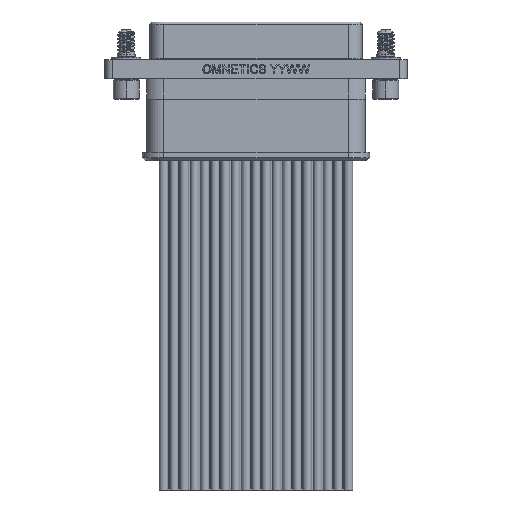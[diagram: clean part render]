
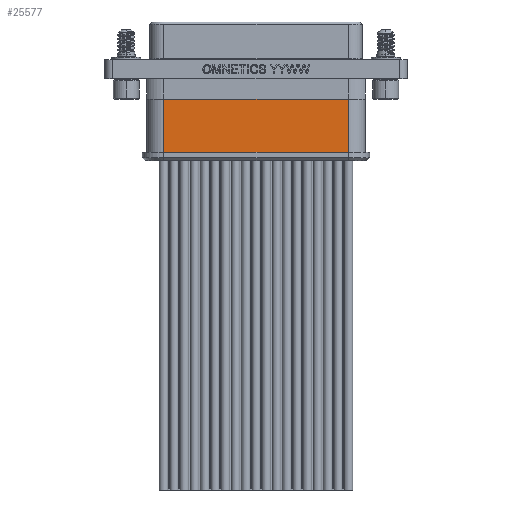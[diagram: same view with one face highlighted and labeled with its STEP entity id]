
A CAD part, front view. The second image highlights one B-rep face of the part: STEP entity #25577.
In plain terms, the highlighted planar face has unit normal (0, -1, 0).
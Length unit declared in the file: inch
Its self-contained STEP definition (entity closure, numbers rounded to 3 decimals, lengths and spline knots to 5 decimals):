
#346 = CARTESIAN_POINT ( 'NONE',  ( -0.4485, -0.104, -0.411 ) ) ;
#2065 = EDGE_CURVE ( 'NONE', #31030, #19276, #25063, .T. ) ;
#2092 = FACE_OUTER_BOUND ( 'NONE', #24980, .T. ) ;
#4809 = CARTESIAN_POINT ( 'NONE',  ( -0.4485, -0.104, -0.151 ) ) ;
#5791 = CARTESIAN_POINT ( 'NONE',  ( 0.4485, -0.104, -0.411 ) ) ;
#6208 = VERTEX_POINT ( 'NONE', #21591 ) ;
#7201 = EDGE_CURVE ( 'NONE', #15805, #6208, #11929, .T. ) ;
#7365 = CARTESIAN_POINT ( 'NONE',  ( -0.4485, -0.104, -0.411 ) ) ;
#9099 = AXIS2_PLACEMENT_3D ( 'NONE', #16446, #16652, #18632 ) ;
#9588 = VECTOR ( 'NONE', #12224, 39.37008 ) ;
#9784 = VECTOR ( 'NONE', #23058, 39.37008 ) ;
#11929 = LINE ( 'NONE', #4809, #9588 ) ;
#12009 = ORIENTED_EDGE ( 'NONE', *, *, #7201, .F. ) ;
#12224 = DIRECTION ( 'NONE',  ( 1., 0., 0. ) ) ;
#15232 = DIRECTION ( 'NONE',  ( 0., 0., 1. ) ) ;
#15805 = VERTEX_POINT ( 'NONE', #16886 ) ;
#16446 = CARTESIAN_POINT ( 'NONE',  ( 0.4485, -0.104, -0.411 ) ) ;
#16652 = DIRECTION ( 'NONE',  ( 0., 1., 0. ) ) ;
#16886 = CARTESIAN_POINT ( 'NONE',  ( -0.4485, -0.104, -0.151 ) ) ;
#18157 = VECTOR ( 'NONE', #31063, 39.37008 ) ;
#18632 = DIRECTION ( 'NONE',  ( -1., 0., 0. ) ) ;
#19276 = VERTEX_POINT ( 'NONE', #7365 ) ;
#21591 = CARTESIAN_POINT ( 'NONE',  ( 0.4485, -0.104, -0.151 ) ) ;
#21792 = VECTOR ( 'NONE', #15232, 39.37008 ) ;
#21928 = CARTESIAN_POINT ( 'NONE',  ( 0.4485, -0.104, -0.411 ) ) ;
#23058 = DIRECTION ( 'NONE',  ( -1., 0., 0. ) ) ;
#23716 = CARTESIAN_POINT ( 'NONE',  ( 0.4485, -0.104, -0.411 ) ) ;
#24211 = EDGE_CURVE ( 'NONE', #19276, #15805, #28472, .T. ) ;
#24980 = EDGE_LOOP ( 'NONE', ( #30441, #12009, #25485, #25427 ) ) ;
#25063 = LINE ( 'NONE', #23716, #9784 ) ;
#25427 = ORIENTED_EDGE ( 'NONE', *, *, #2065, .F. ) ;
#25485 = ORIENTED_EDGE ( 'NONE', *, *, #24211, .F. ) ;
#25577 = ADVANCED_FACE ( 'NONE', ( #2092 ), #31455, .F. ) ;
#28385 = LINE ( 'NONE', #5791, #18157 ) ;
#28472 = LINE ( 'NONE', #346, #21792 ) ;
#30441 = ORIENTED_EDGE ( 'NONE', *, *, #32407, .T. ) ;
#31030 = VERTEX_POINT ( 'NONE', #21928 ) ;
#31063 = DIRECTION ( 'NONE',  ( 0., 0., 1. ) ) ;
#31455 = PLANE ( 'NONE',  #9099 ) ;
#32407 = EDGE_CURVE ( 'NONE', #31030, #6208, #28385, .T. ) ;
